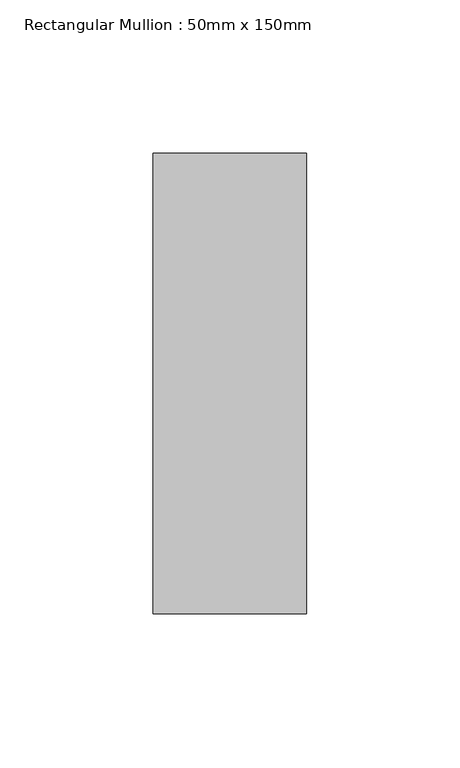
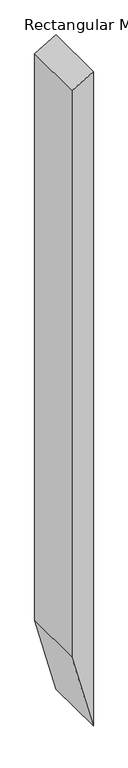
"""IFC4 building model written with IfcOpenShell, lengths in millimetres: member geometry, Rectangular Mullion : 50mm x 150mm."""

from ifc_helpers import new_model, si_unit, frame, origin, place, context, project, spatial, polyline, outline, extrude, source, transform, mapped, element, save


def rectangular_mullion_50mm_x_150mm_de2f9dda(model_context):
    return source(origin(), model_context, "Body", "SweptSolid", [
        extrude(outline(polyline([(-86.6025404, 0.0), (-115.4700538, -50.0), (-1512.4275908, -50.0), (-1699.0301312, 0.0), (-86.6025404, 0.0)])), frame((0.0, -75.0, 0.0), z_axis=(0.0, 1.0, 0.0), x_axis=(0.0, 0.0, 1.0)), (0.0, 0.0, 1.0), 150.0),
    ])


if __name__ == "__main__":
    model = new_model("IFC4")
    model_context = context("Model", 3, world=origin())
    ifc_project = project(units=[si_unit("LENGTHUNIT", "METRE", prefix="MILLI")], contexts=[model_context])
    site = spatial("IfcSite", under=ifc_project)
    building = spatial("IfcBuilding", under=site)
    placement = place(None, origin())
    rectangular_mullion_50mm_x_150mm_shape = rectangular_mullion_50mm_x_150mm_de2f9dda(model_context)
    element("IfcMember", 1, ObjectType="Rectangular Mullion : 50mm x 150mm", at=placement, inside=building, context=model_context, shape_type="MappedRepresentation", body=[
        mapped(rectangular_mullion_50mm_x_150mm_shape, transform((0.0, 0.0, 0.0), x_axis=(1.0, 0.0, 0.0), y_axis=(0.0, 1.0, 0.0), z_axis=(0.0, 0.0, 1.0))),
    ])
    save(model, "model.ifc")
